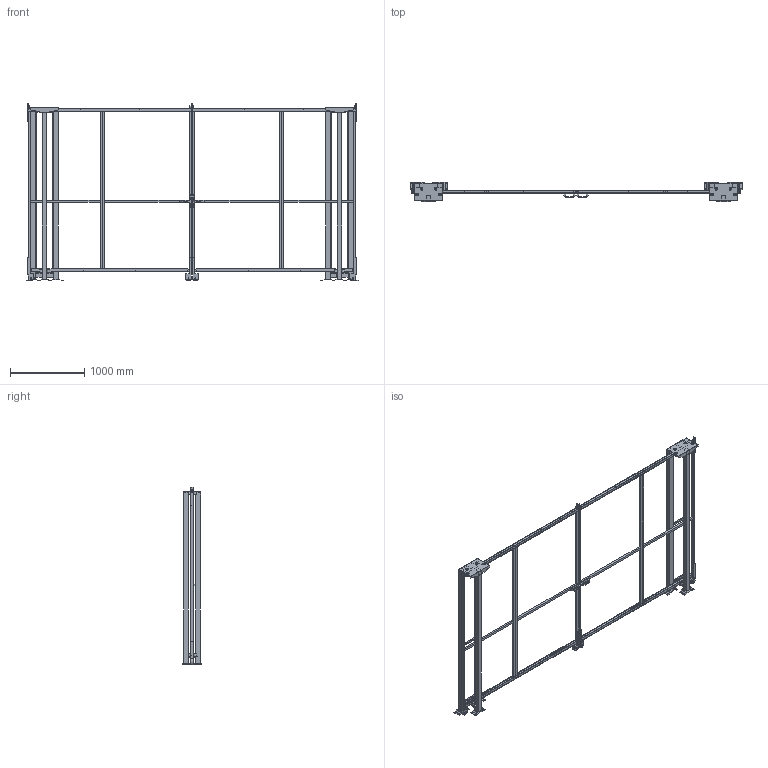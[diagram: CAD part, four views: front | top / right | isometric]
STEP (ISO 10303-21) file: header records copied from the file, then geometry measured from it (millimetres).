
FILE_DESCRIPTION(/* description */ (''),/* implementation_level */ '2;1');
FILE_NAME(/* name */ 'C:\SafeGuarding\ELABORATI\KLADKA2KR_2025-03-25-10-23-21.stp',/* time_stamp */ '2025-03-25T10:23:26+01:00',/* author */ ('admin'),/* organization */ (''),/* preprocessor_version */ 'ST-DEVELOPER v18.1',/* originating_system */ 'AutoCAD Mechanical',/* authorisation */ '');
FILE_SCHEMA (('AUTOMOTIVE_DESIGN { 1 0 10303 214 3 1 1 }'));
Length unit declared in the file: millimetre
Products named in the file (6): Product; R_VFPA.REPE30.10002200; R_VFPA.REPE30.12002200; P_VFMA.V360SDU.2320; R_VFPA.REPE20.02502200; P_VFMA.V260SDU.2320
Assembly tree (12 placements, depth 2):
  Product
    R_VFPA.REPE30.10002200  x2
    R_VFPA.REPE30.12002200  x2
    P_VFMA.V360SDU.2320  x2
    P_VFMA.V260SDU.2320  x4
    R_VFPA.REPE20.02502200  x2
Bounding box: 4471.36 x 264 x 2390.02 mm (x, y, z)
Volume: 87548353.5 mm3; surface area: 12260047.5 mm2
Topology: 108 solids, 130 shells, 946 faces, 2975 edges, 3073 vertices
Faces by surface type: plane 870, cylinder 76
Full cylindrical faces by diameter (mm): 9 x8, 11 x24, 13 x8, 14 x4, 30 x12, 36 x16, 80 x4
Entity records: 25219 total; most frequent: CARTESIAN_POINT 5387, DIRECTION 3847, ORIENTED_EDGE 3524, EDGE_CURVE 1860, LINE 1789, VECTOR 1789, VERTEX_POINT 1320, AXIS2_PLACEMENT_3D 1029
